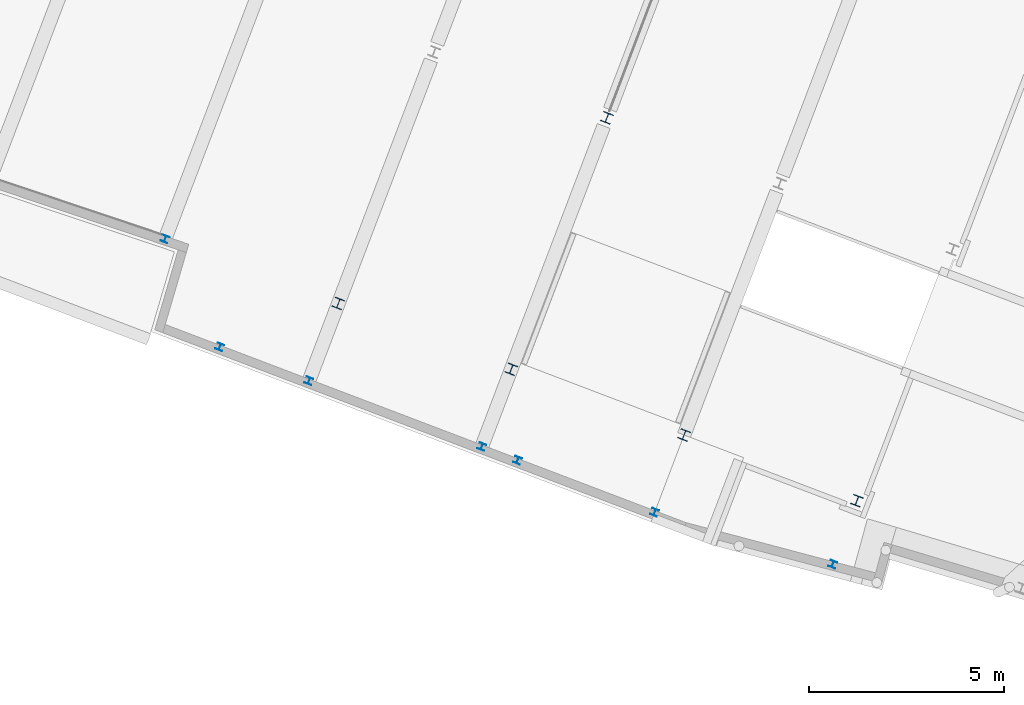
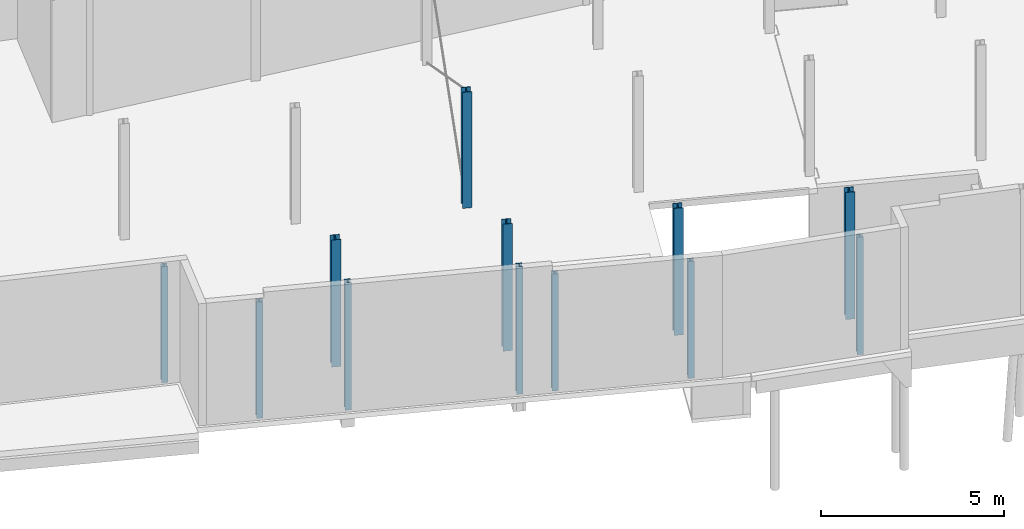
# One storey, part 32 of 46: 12 columns.
"""IFC2X3 building model written with IfcOpenShell, lengths in millimetres."""

from ifc_helpers import new_model, entity, si_unit, converted_unit, derived_unit, direction, frame, frame_2d, origin, origin_2d_with_axis, place, context, subcontext, project, spatial, i_section, extrude, source, transform, mapped, material, type_object, type_shapes, element, save


model = new_model("IFC2X3")

# Units and contexts
model_context = context("Model", 3, precision=0.01, world=origin(), true_north=direction((6.123233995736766e-17, 1.0)))
body_context = subcontext(model_context, "Body", "Model", "MODEL_VIEW")
ifc_project = project(units=[si_unit("LENGTHUNIT", "METRE", prefix="MILLI"), converted_unit("PLANEANGLEUNIT", "DEGREE", entity("IfcPlaneAngleMeasure", 0.017453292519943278), si_unit("PLANEANGLEUNIT", "RADIAN"), dimensions=[0, 0, 0, 0, 0, 0, 0]), si_unit("AREAUNIT", "SQUARE_METRE"), derived_unit("THERMALTRANSMITTANCEUNIT", [(si_unit("MASSUNIT", "GRAM", prefix="KILO"), 1), (si_unit("THERMODYNAMICTEMPERATUREUNIT", "KELVIN"), -1), (si_unit("TIMEUNIT", "SECOND"), -3)])], contexts=[model_context])

# Site, building, storey
site_placement = place(None, frame((-72937.88054949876, 11621.45624098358, 0.0), z_axis=(0.0, 0.0, 1.0), x_axis=(0.9346418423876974, -0.35559053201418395, 0.0)))
site = spatial("IfcSite", under=ifc_project, at=site_placement, Name="Default", CompositionType="ELEMENT")
building_placement = place(site_placement, origin())
building = spatial("IfcBuilding", under=site, at=building_placement, CompositionType="ELEMENT")
storey_placement = place(building_placement, origin())
storey = spatial("IfcBuildingStorey", under=building, at=storey_placement, Name="00 begane grond", CompositionType="ELEMENT", Elevation=0.0)

# Columns
ifc_material = material(Name="metaal_staal_generiek")
column_type_1 = type_object("IfcColumnType", Name="DIE26", PredefinedType="COLUMN", material=ifc_material)
shared_shape_1 = source(origin(), body_context, "Body", "SweptSolid", [
    extrude(i_section(OverallWidth=260.0, OverallDepth=249.99999999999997, WebThickness=7.499999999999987, FlangeThickness=12.5, FilletRadius=24.0, at=origin_2d_with_axis()), frame((0.0, 0.0, -60.0), z_axis=(0.0, 0.0, 1.0), x_axis=(-1.0, 0.0, 0.0)), (0.0, 0.0, 1.0), 4230.0),
])
type_shapes(column_type_1, [shared_shape_1])
for number, where in (
    (1, (52840.0, 15000.0, 0.0)),
    (2, (48110.0, 15000.0, 0.0)),
    (3, (43380.0, 15000.0, 0.0)),
    (4, (38650.0, 15000.0, 0.0)),
):
    element("IfcColumn", number, at=place(storey_placement, frame(where)), inside=storey, type_object=column_type_1, material=ifc_material, Name="28.11_SCO_KolomHEA:DIE26", ObjectType="28.11_SCO_KolomHEA:DIE26", context=body_context, shape_type="MappedRepresentation", body=[
        mapped(shared_shape_1, transform((0.0, 0.0, 0.0), scale=1.0)),
    ])
column_type_2 = type_object("IfcColumnType", Name="DIE26", PredefinedType="COLUMN", material=ifc_material)
shared_shape_2 = source(origin(), body_context, "Body", "SweptSolid", [
    extrude(i_section(OverallWidth=260.00000000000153, OverallDepth=249.9999999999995, WebThickness=7.499999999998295, FlangeThickness=12.50000000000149, FilletRadius=24.0, at=frame_2d((4.320099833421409e-12, -2.1671553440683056e-12), x_axis=(1.0, 0.0))), frame((43380.0, 21880.0, -60.0), z_axis=(0.0, 0.0, 1.0), x_axis=(-1.0, 0.0, 0.0)), (0.0, 0.0, 1.0), 3859.999999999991),
])
type_shapes(column_type_2, [shared_shape_2])
column_1_placement = place(storey_placement, origin())
element("IfcColumn", 5, at=column_1_placement, inside=storey, type_object=column_type_2, material=ifc_material, Name="28.11_SCO_KolomHEA:DIE26", ObjectType="28.11_SCO_KolomHEA:DIE26", context=body_context, shape_type="MappedRepresentation", body=[
    mapped(shared_shape_2, transform((0.0, 0.0, 0.0), scale=1.0)),
])
column_type_3 = type_object("IfcColumnType", Name="DIE18", PredefinedType="COLUMN", material=ifc_material)
shared_shape_3 = source(origin(), body_context, "Body", "SweptSolid", [
    extrude(i_section(OverallWidth=179.99999999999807, OverallDepth=171.0000000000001, WebThickness=5.999999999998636, FlangeThickness=9.500000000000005, FilletRadius=15.0, at=frame_2d((2.1671553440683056e-12, 2.1671553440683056e-12), x_axis=(1.0, 0.0))), frame((33920.0, 14965.285956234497, -60.0), z_axis=(0.0, 0.0, 1.0), x_axis=(-1.0, 0.0, 0.0)), (0.0, 0.0, 1.0), 3859.999999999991),
])
type_shapes(column_type_3, [shared_shape_3])
column_2_placement = place(storey_placement, origin())
element("IfcColumn", 6, at=column_2_placement, inside=storey, type_object=column_type_3, material=ifc_material, Name="28.11_SCO_KolomHEA:DIE18", ObjectType="28.11_SCO_KolomHEA:DIE18", context=body_context, shape_type="MappedRepresentation", body=[
    mapped(shared_shape_3, transform((0.0, 0.0, 0.0), scale=1.0)),
])
column_type_4 = type_object("IfcColumnType", Name="DIE18", PredefinedType="COLUMN", material=ifc_material)
shared_shape_4 = source(origin(), body_context, "Body", "SweptSolid", [
    extrude(i_section(OverallWidth=180.0000000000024, OverallDepth=171.0000000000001, WebThickness=5.999999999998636, FlangeThickness=9.500000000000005, FilletRadius=15.0, at=frame_2d((-4.334310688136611e-12, -2.1671553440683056e-12), x_axis=(1.0, 0.0))), frame((52840.0, 13263.206837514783, -60.0), z_axis=(0.0, 0.0, 1.0), x_axis=(-1.0, 0.0, 0.0)), (0.0, 0.0, 1.0), 3907.999999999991),
])
type_shapes(column_type_4, [shared_shape_4])
column_3_placement = place(storey_placement, origin())
element("IfcColumn", 7, at=column_3_placement, inside=storey, type_object=column_type_4, material=ifc_material, Name="28.11_SCO_KolomHEA:DIE18", ObjectType="28.11_SCO_KolomHEA:DIE18", context=body_context, shape_type="MappedRepresentation", body=[
    mapped(shared_shape_4, transform((0.0, 0.0, 0.0), scale=1.0)),
])
column_type_5 = type_object("IfcColumnType", Name="DIE18", PredefinedType="COLUMN", material=ifc_material)
shared_shape_5 = source(origin(), body_context, "Body", "SweptSolid", [
    extrude(i_section(OverallWidth=180.0000000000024, OverallDepth=171.0000000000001, WebThickness=5.999999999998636, FlangeThickness=9.500000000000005, FilletRadius=15.0, at=frame_2d((4.334310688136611e-12, 0.0), x_axis=(1.0, 0.0))), frame((48110.0, 12882.982078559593, -60.0), z_axis=(0.0, 0.0, 1.0), x_axis=(-1.0, 0.0, 0.0)), (0.0, 0.0, 1.0), 3888.999999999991),
])
type_shapes(column_type_5, [shared_shape_5])
column_4_placement = place(storey_placement, origin())
element("IfcColumn", 8, at=column_4_placement, inside=storey, type_object=column_type_5, material=ifc_material, Name="28.11_SCO_KolomHEA:DIE18", ObjectType="28.11_SCO_KolomHEA:DIE18", context=body_context, shape_type="MappedRepresentation", body=[
    mapped(shared_shape_5, transform((0.0, 0.0, 0.0), scale=1.0)),
])
column_type_6 = type_object("IfcColumnType", Name="DIE18", PredefinedType="COLUMN", material=ifc_material)
shared_shape_6 = source(origin(), body_context, "Body", "SweptSolid", [
    extrude(i_section(OverallWidth=180.0000000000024, OverallDepth=171.0000000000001, WebThickness=5.999999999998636, FlangeThickness=9.500000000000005, FilletRadius=15.0, at=frame_2d((4.334310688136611e-12, 0.0), x_axis=(1.0, 0.0))), frame((44360.0, 12882.982078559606, -60.0), z_axis=(0.0, 0.0, 1.0), x_axis=(-1.0, 0.0, 0.0)), (0.0, 0.0, 1.0), 3888.999999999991),
])
type_shapes(column_type_6, [shared_shape_6])
column_5_placement = place(storey_placement, origin())
element("IfcColumn", 9, at=column_5_placement, inside=storey, type_object=column_type_6, material=ifc_material, Name="28.11_SCO_KolomHEA:DIE18", ObjectType="28.11_SCO_KolomHEA:DIE18", context=body_context, shape_type="MappedRepresentation", body=[
    mapped(shared_shape_6, transform((0.0, 0.0, 0.0), scale=1.0)),
])
column_type_7 = type_object("IfcColumnType", Name="DIE18", PredefinedType="COLUMN", material=ifc_material)
shared_shape_7 = source(origin(), body_context, "Body", "SweptSolid", [
    extrude(i_section(OverallWidth=179.99999999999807, OverallDepth=171.0000000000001, WebThickness=5.999999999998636, FlangeThickness=9.500000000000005, FilletRadius=15.0, at=frame_2d((2.1671553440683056e-12, 0.0), x_axis=(1.0, 0.0))), frame((36210.0, 12882.982078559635, -60.0), z_axis=(0.0, 0.0, 1.0), x_axis=(-1.0, 0.0, 0.0)), (0.0, 0.0, 1.0), 3869.999999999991),
])
type_shapes(column_type_7, [shared_shape_7])
column_6_placement = place(storey_placement, origin())
element("IfcColumn", 10, at=column_6_placement, inside=storey, type_object=column_type_7, material=ifc_material, Name="28.11_SCO_KolomHEA:DIE18", ObjectType="28.11_SCO_KolomHEA:DIE18", context=body_context, shape_type="MappedRepresentation", body=[
    mapped(shared_shape_7, transform((0.0, 0.0, 0.0), scale=1.0)),
])
column_type_8 = type_object("IfcColumnType", Name="DIE18", PredefinedType="COLUMN", material=ifc_material)
shared_shape_8 = source(origin(), body_context, "Body", "SweptSolid", [
    extrude(i_section(OverallWidth=180.0000000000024, OverallDepth=171.0000000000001, WebThickness=5.999999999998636, FlangeThickness=9.500000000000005, FilletRadius=15.0, at=frame_2d((4.334310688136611e-12, -2.1671553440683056e-12), x_axis=(1.0, 0.0))), frame((43380.0, 12882.982078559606, -60.0), z_axis=(0.0, 0.0, 1.0), x_axis=(-1.0, 0.0, 0.0)), (0.0, 0.0, 1.0), 4250.0),
])
type_shapes(column_type_8, [shared_shape_8])
column_7_placement = place(storey_placement, origin())
element("IfcColumn", 11, at=column_7_placement, inside=storey, type_object=column_type_8, material=ifc_material, Name="28.11_SCO_KolomHEA:DIE18", ObjectType="28.11_SCO_KolomHEA:DIE18", context=body_context, shape_type="MappedRepresentation", body=[
    mapped(shared_shape_8, transform((0.0, 0.0, 0.0), scale=1.0)),
])
column_type_9 = type_object("IfcColumnType", Name="DIE18", PredefinedType="COLUMN", material=ifc_material)
shared_shape_9 = source(origin(), body_context, "Body", "SweptSolid", [
    extrude(i_section(OverallWidth=179.99999999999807, OverallDepth=171.0000000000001, WebThickness=5.999999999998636, FlangeThickness=9.500000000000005, FilletRadius=15.0, at=frame_2d((2.1671553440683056e-12, 2.1671553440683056e-12), x_axis=(1.0, 0.0))), frame((38650.0, 12882.982078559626, -60.0), z_axis=(0.0, 0.0, 1.0), x_axis=(-1.0, 0.0, 0.0)), (0.0, 0.0, 1.0), 4250.0),
])
type_shapes(column_type_9, [shared_shape_9])
column_8_placement = place(storey_placement, origin())
element("IfcColumn", 12, at=column_8_placement, inside=storey, type_object=column_type_9, material=ifc_material, Name="28.11_SCO_KolomHEA:DIE18", ObjectType="28.11_SCO_KolomHEA:DIE18", context=body_context, shape_type="MappedRepresentation", body=[
    mapped(shared_shape_9, transform((0.0, 0.0, 0.0), scale=1.0)),
])

save(model, "model.ifc")
